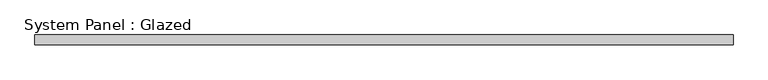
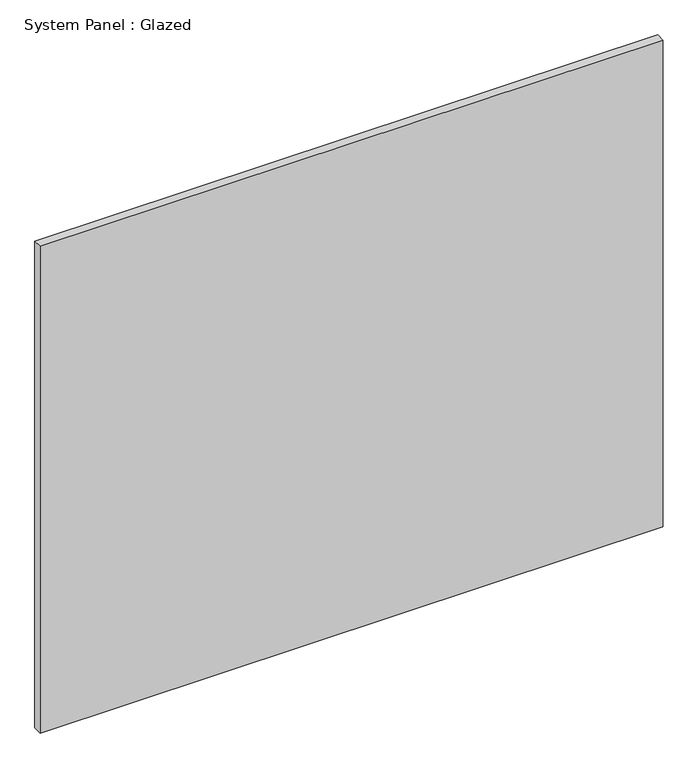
"""IFC4 building model written with IfcOpenShell, lengths in millimetres: plate geometry, System Panel : Glazed."""

from ifc_helpers import new_model, si_unit, origin, origin_with_axes, place, context, project, spatial, polyline, outline, extrude, source, transform, mapped, element, save


def system_panel_glazed_4e3a185f(model_context):
    return source(origin(), model_context, "Body", "SweptSolid", [
        extrude(outline(polyline([(870.9375, 30.6), (-870.9375, 30.6), (-870.9375, 55.6), (870.9375, 55.6), (870.9375, 30.6)])), origin_with_axes(), (0.0, 0.0, 1.0), 1438.275),
    ])


if __name__ == "__main__":
    model = new_model("IFC4")
    model_context = context("Model", 3, world=origin())
    ifc_project = project(units=[si_unit("LENGTHUNIT", "METRE", prefix="MILLI")], contexts=[model_context])
    site = spatial("IfcSite", under=ifc_project)
    building = spatial("IfcBuilding", under=site)
    placement = place(None, origin())
    system_panel_glazed_shape = system_panel_glazed_4e3a185f(model_context)
    element("IfcPlate", 1, ObjectType="System Panel : Glazed", at=placement, inside=building, context=model_context, shape_type="MappedRepresentation", body=[
        mapped(system_panel_glazed_shape, transform((0.0, 0.0, 0.0), x_axis=(1.0, 0.0, 0.0), y_axis=(0.0, 1.0, 0.0), z_axis=(0.0, 0.0, 1.0))),
    ])
    save(model, "model.ifc")
